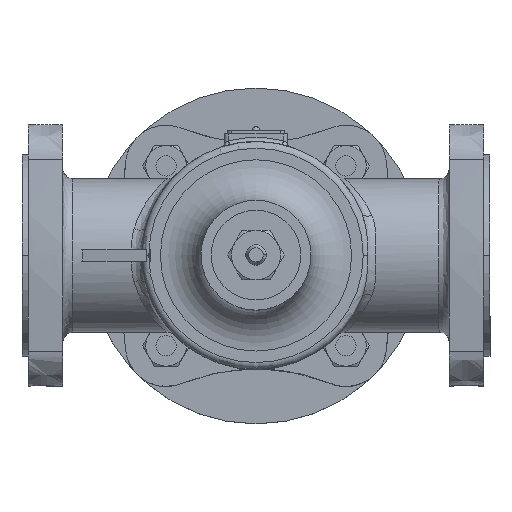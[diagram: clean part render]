
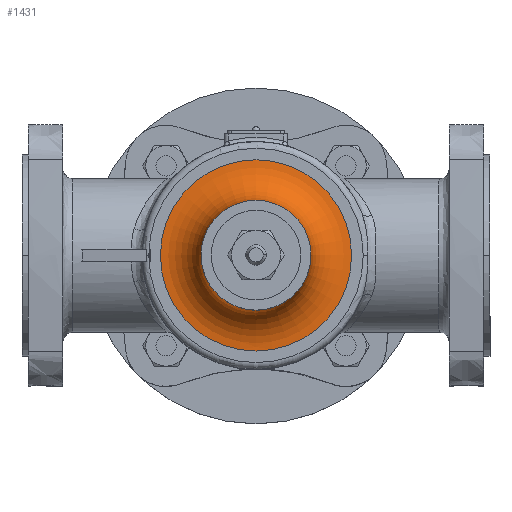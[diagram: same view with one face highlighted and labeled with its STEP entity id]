
A CAD part, top view. The second image highlights one B-rep face of the part: STEP entity #1431.
In plain terms, the highlighted toroidal (fillet/blend) face has major radius 47 mm and minor radius 20 mm.
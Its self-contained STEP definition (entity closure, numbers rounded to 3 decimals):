
#135=TOROIDAL_SURFACE('',#5642,47.,20.);
#1431=ADVANCED_FACE('',(#1828,#1829),#135,.F.);
#1828=FACE_BOUND('',#2127,.T.);
#1829=FACE_BOUND('',#2128,.T.);
#2127=EDGE_LOOP('',(#3455));
#2128=EDGE_LOOP('',(#3456));
#3455=ORIENTED_EDGE('',*,*,#4446,.F.);
#3456=ORIENTED_EDGE('',*,*,#4482,.F.);
#3908=VERTEX_POINT('',#10436);
#3932=VERTEX_POINT('',#10513);
#4446=EDGE_CURVE('',#3908,#3908,#5045,.T.);
#4482=EDGE_CURVE('',#3932,#3932,#5067,.T.);
#5045=CIRCLE('',#5317,47.);
#5067=CIRCLE('',#5356,27.);
#5317=AXIS2_PLACEMENT_3D('',#10435,#5982,#5983);
#5356=AXIS2_PLACEMENT_3D('',#10512,#6074,#6075);
#5642=AXIS2_PLACEMENT_3D('',#11629,#6798,#6799);
#5982=DIRECTION('',(0.,0.,-1.));
#5983=DIRECTION('',(0.,-1.,0.));
#6074=DIRECTION('',(0.,0.,1.));
#6075=DIRECTION('',(0.,-1.,0.));
#6798=DIRECTION('',(0.,0.,1.));
#6799=DIRECTION('',(0.,-1.,0.));
#10435=CARTESIAN_POINT('',(-230.,0.,37.374));
#10436=CARTESIAN_POINT('',(-230.,-47.,37.374));
#10512=CARTESIAN_POINT('',(-230.,0.,57.374));
#10513=CARTESIAN_POINT('',(-230.,-27.,57.374));
#11629=CARTESIAN_POINT('',(-230.,0.,57.374));
